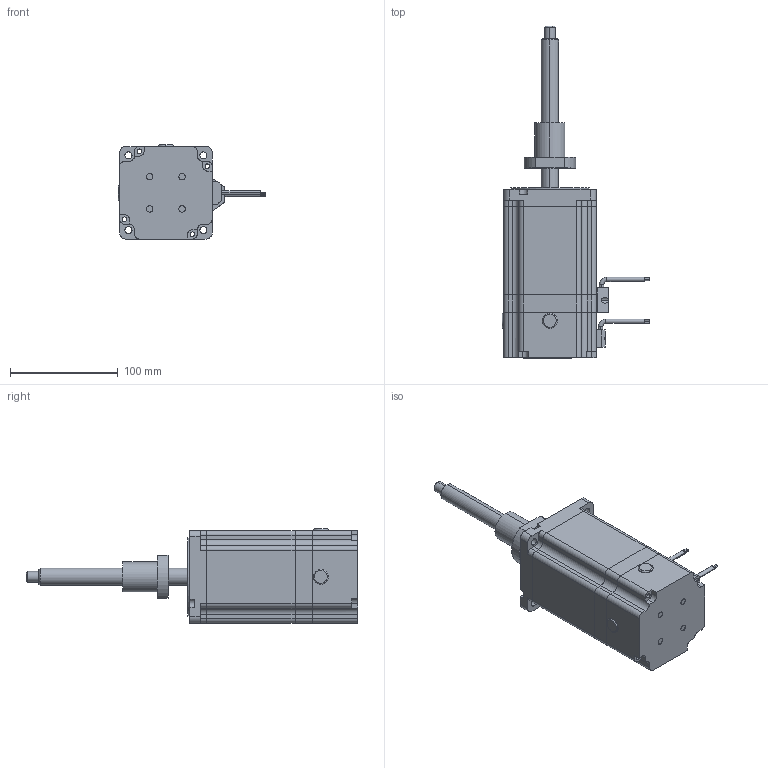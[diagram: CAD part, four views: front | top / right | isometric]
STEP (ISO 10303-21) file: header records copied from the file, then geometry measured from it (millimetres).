
FILE_DESCRIPTION (( 'STEP AP203' ), '1' );
FILE_NAME ('86E2114-BS1605-6-4-152B-001.STEP', '2020-08-24T08:08:26', ( '' ), ( '' ), 'SwSTEP 2.0', 'SolidWorks 2017', '' );
FILE_SCHEMA (( 'CONFIG_CONTROL_DESIGN' ));
Length unit declared in the file: millimetre
Products named in the file (1): 86E2114-BS1605-6-4-152B-001
Bounding box: 137.5 x 308.5 x 87.5 mm (x, y, z)
Volume: 1064483.5 mm3; surface area: 117969.4 mm2
Topology: 5 solids, 5 shells, 354 faces, 919 edges, 603 vertices
Faces by surface type: cylinder 186, plane 143, torus 16, cone 9
Entity records: 11155 total; most frequent: DIRECTION 2042, CARTESIAN_POINT 1895, ORIENTED_EDGE 1838, EDGE_CURVE 919, AXIS2_PLACEMENT_3D 774, VERTEX_POINT 603, LINE 494, VECTOR 494
